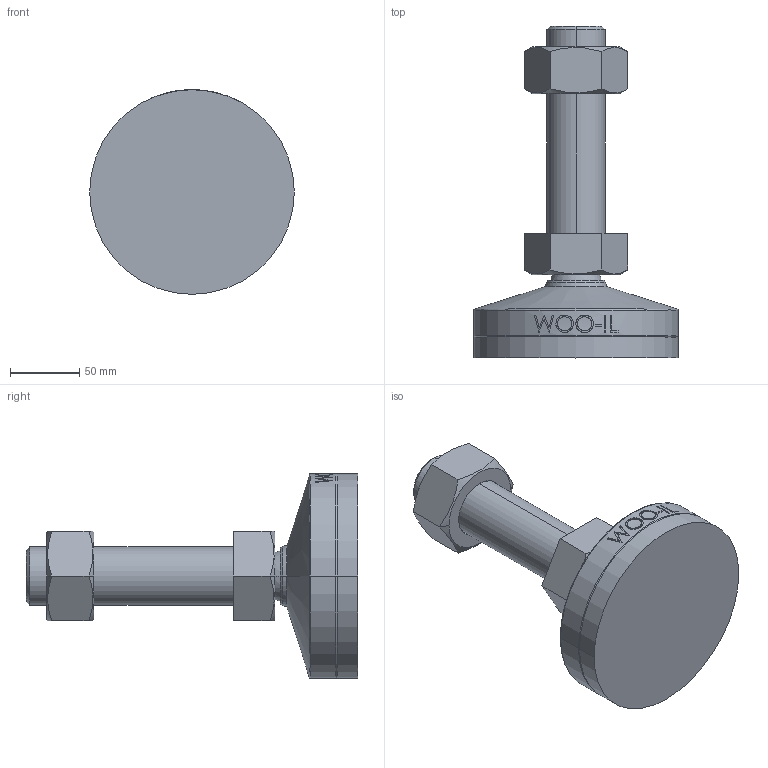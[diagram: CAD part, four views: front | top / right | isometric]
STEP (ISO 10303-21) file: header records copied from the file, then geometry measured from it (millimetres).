
FILE_DESCRIPTION (( 'STEP AP214' ), '1' );
FILE_NAME ('MFNR148-M42-150.step', '2021-02-22T09:05:31', ( '' ), ( '' ), 'SwSTEP 2.0', 'SolidWorks 2019', '' );
FILE_SCHEMA (( 'AUTOMOTIVE_DESIGN' ));
Length unit declared in the file: millimetre
Products named in the file (2): MFNR148-M42-150
Bounding box: 148 x 240 x 148 mm (x, y, z)
Volume: 1136982.9 mm3; surface area: 100525.5 mm2
Topology: 2 solids, 2 shells, 103 faces, 239 edges, 152 vertices
Faces by surface type: plane 47, cone 18, cylinder 16, bspline 16, torus 4, sphere 2
Entity records: 4657 total; most frequent: CARTESIAN_POINT 2378, ORIENTED_EDGE 478, DIRECTION 423, EDGE_CURVE 239, AXIS2_PLACEMENT_3D 161, VERTEX_POINT 152, EDGE_LOOP 117, ADVANCED_FACE 103
